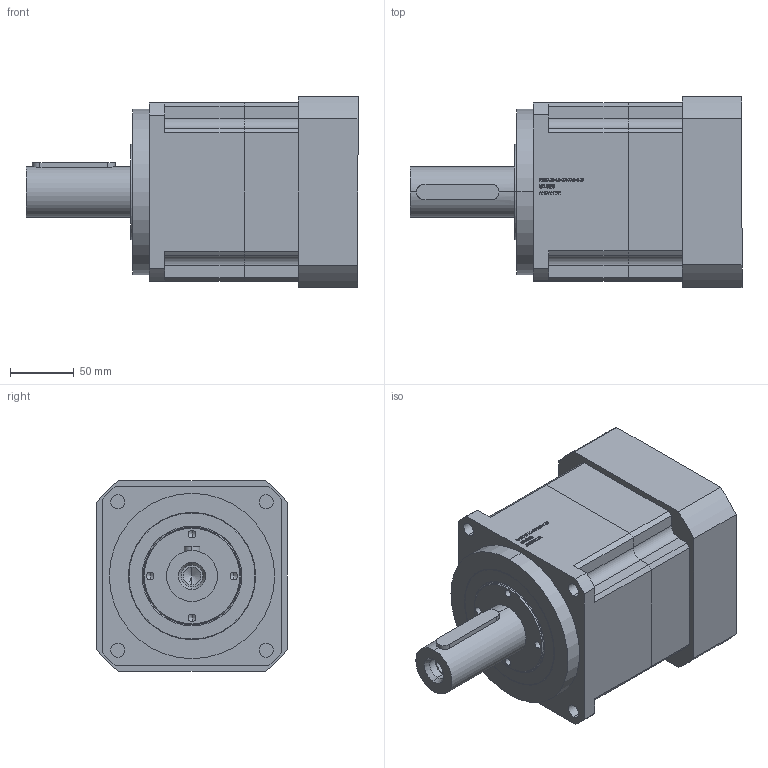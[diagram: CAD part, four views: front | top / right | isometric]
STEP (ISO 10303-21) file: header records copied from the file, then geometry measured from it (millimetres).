
FILE_DESCRIPTION (( 'STEP AP203' ), '1' );
FILE_NAME ('PAG140-L1-22-110-145.STEP', '2022-07-20T02:57:19', ( 'Windows User' ), ( 'P R C' ), 'SwSTEP 2.0', 'SolidWorks 2016', '' );
FILE_SCHEMA (( 'CONFIG_CONTROL_DESIGN' ));
Length unit declared in the file: millimetre
Products named in the file (8): PAG140奻裔啣; PAG140狟裔啣-22-B6; PAG140 蟀諉啣 150選 110x10 145xM8 47L; 邧埴瑩 12x8x65; TC75-100-10_TC-34.9-55-7; TC70-95-8_TC-34.9-55-7; 囀鞠褒蹟佪-M10℅30; PAG140-L1-22-110-145
Assembly tree (7 placements, depth 2):
  PAG140-L1-22-110-145
    PAG140奻裔啣
    PAG140狟裔啣-22-B6
    PAG140 蟀諉啣 150選 110x10 145xM8 47L
    邧埴瑩 12x8x65
    TC75-100-10_TC-34.9-55-7
    TC70-95-8_TC-34.9-55-7
    囀鞠褒蹟佪-M10℅30
Bounding box: 261 x 150 x 150 mm (x, y, z)
Volume: 3091115.4 mm3; surface area: 310370.8 mm2
Topology: 7 solids, 7 shells, 920 faces, 2410 edges, 1576 vertices
Faces by surface type: plane 555, cylinder 165, bspline 126, cone 42, torus 32
Entity records: 33833 total; most frequent: CARTESIAN_POINT 10796, ORIENTED_EDGE 4784, DIRECTION 4185, EDGE_CURVE 2392, VECTOR 1683, LINE 1683, VERTEX_POINT 1576, AXIS2_PLACEMENT_3D 1251
